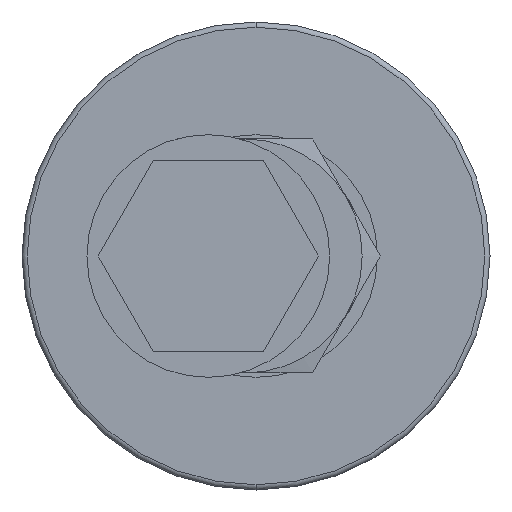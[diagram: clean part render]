
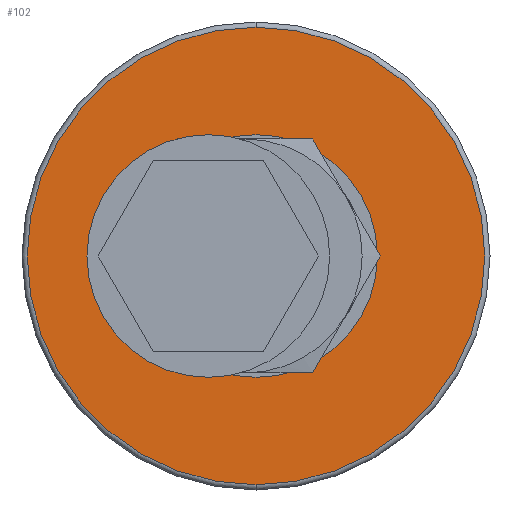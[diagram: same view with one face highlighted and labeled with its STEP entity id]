
A CAD part, front view. The second image highlights one B-rep face of the part: STEP entity #102.
In plain terms, the highlighted planar face has unit normal (0, -1, 0).
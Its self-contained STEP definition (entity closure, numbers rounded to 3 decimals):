
#102=ADVANCED_FACE('',(#184,#185),#186,.T.);
#184=FACE_OUTER_BOUND('',#332,.T.);
#185=FACE_BOUND('',#333,.T.);
#186=PLANE('',#334);
#332=EDGE_LOOP('',(#535,#536));
#333=EDGE_LOOP('',(#537,#538));
#334=AXIS2_PLACEMENT_3D('',#539,#540,#541);
#535=ORIENTED_EDGE('',*,*,#998,.T.);
#536=ORIENTED_EDGE('',*,*,#1006,.T.);
#537=ORIENTED_EDGE('',*,*,#1005,.F.);
#538=ORIENTED_EDGE('',*,*,#1002,.F.);
#539=CARTESIAN_POINT('',(1.25,6.0,-14.0));
#540=DIRECTION('',(0.,-1.0,0.));
#541=DIRECTION('',(-1.0,0.,0.));
#998=EDGE_CURVE('',#1167,#1165,#1168,.T.);
#1002=EDGE_CURVE('',#1173,#1175,#1176,.T.);
#1005=EDGE_CURVE('',#1175,#1173,#1179,.T.);
#1006=EDGE_CURVE('',#1165,#1167,#1180,.T.);
#1165=VERTEX_POINT('',#1417);
#1167=VERTEX_POINT('',#1419);
#1168=CIRCLE('',#1420,26.4);
#1173=VERTEX_POINT('',#1425);
#1175=VERTEX_POINT('',#1428);
#1176=CIRCLE('',#1429,14.0);
#1179=CIRCLE('',#1433,14.0);
#1180=CIRCLE('',#1434,26.4);
#1417=CARTESIAN_POINT('',(1.25,6.0,26.4));
#1419=CARTESIAN_POINT('',(1.25,6.0,-26.4));
#1420=AXIS2_PLACEMENT_3D('',#1856,#1857,#1858);
#1425=CARTESIAN_POINT('',(1.25,6.0,14.0));
#1428=CARTESIAN_POINT('',(1.25,6.0,-14.0));
#1429=AXIS2_PLACEMENT_3D('',#1866,#1867,#1868);
#1433=AXIS2_PLACEMENT_3D('',#1873,#1874,#1875);
#1434=AXIS2_PLACEMENT_3D('',#1876,#1877,#1878);
#1856=CARTESIAN_POINT('',(1.25,6.0,0.0));
#1857=DIRECTION('',(0.,-1.0,0.));
#1858=DIRECTION('',(0.,0.,-1.0));
#1866=CARTESIAN_POINT('',(1.25,6.0,0.0));
#1867=DIRECTION('',(0.,-1.0,0.));
#1868=DIRECTION('',(0.,0.,-1.0));
#1873=CARTESIAN_POINT('',(1.25,6.0,0.0));
#1874=DIRECTION('',(0.,-1.0,0.));
#1875=DIRECTION('',(0.,0.,-1.0));
#1876=CARTESIAN_POINT('',(1.25,6.0,0.0));
#1877=DIRECTION('',(0.,-1.0,0.));
#1878=DIRECTION('',(0.,0.,-1.0));
